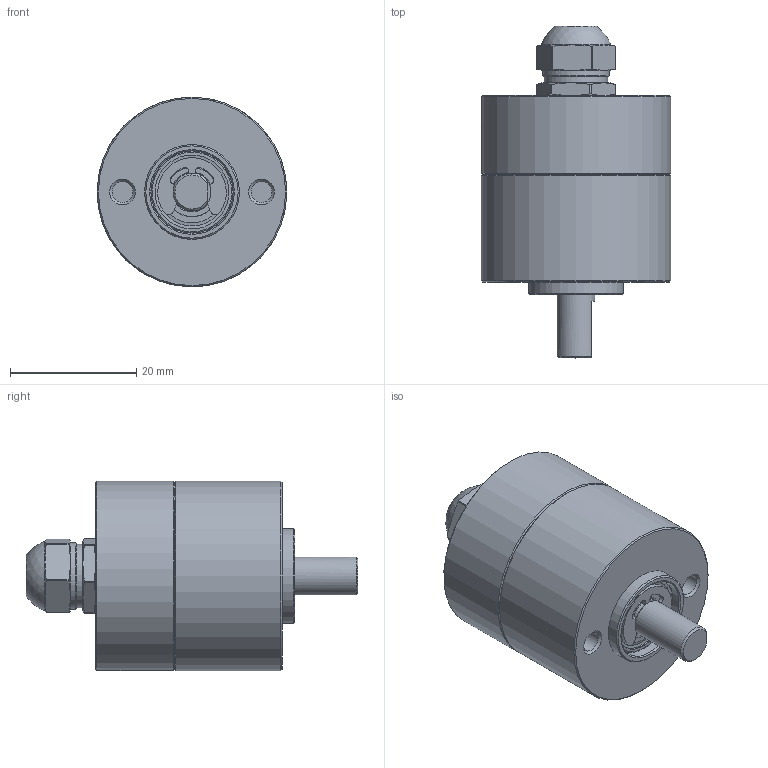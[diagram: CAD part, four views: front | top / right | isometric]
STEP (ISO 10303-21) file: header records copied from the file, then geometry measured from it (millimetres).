
FILE_DESCRIPTION (( 'STEP AP214' ), '1' );
FILE_NAME ('27-67xx0.STEP', '2020-12-22T10:46:45', ( '' ), ( '' ), 'SwSTEP 2.0', 'SolidWorks 2019', '' );
FILE_SCHEMA (( 'AUTOMOTIVE_DESIGN' ));
Length unit declared in the file: millimetre
Products named in the file (1): 27-67xx0
Bounding box: 30 x 52.5 x 30 mm (x, y, z)
Surface area: 5893.7 mm2 (no closed solid volume)
Topology: 0 solids, 12 shells, 101 faces, 252 edges, 166 vertices
Faces by surface type: cylinder 35, plane 34, cone 15, sphere 13, torus 4
Full cylindrical faces by diameter (mm): 3.3 x2, 5 x1, 6 x3, 7.9 x1, 10 x1, 10.5 x1, 11.7 x1, 13 x1, 15 x1, 30 x2
Entity records: 3961 total; most frequent: CARTESIAN_POINT 556, DIRECTION 521, ORIENTED_EDGE 357, AXIS2_PLACEMENT_3D 230, EDGE_CURVE 215, VERTEX_POINT 161, EDGE_LOOP 147, CIRCLE 128
